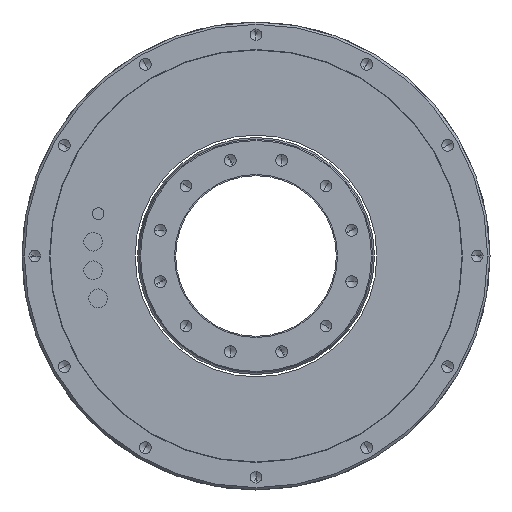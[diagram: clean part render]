
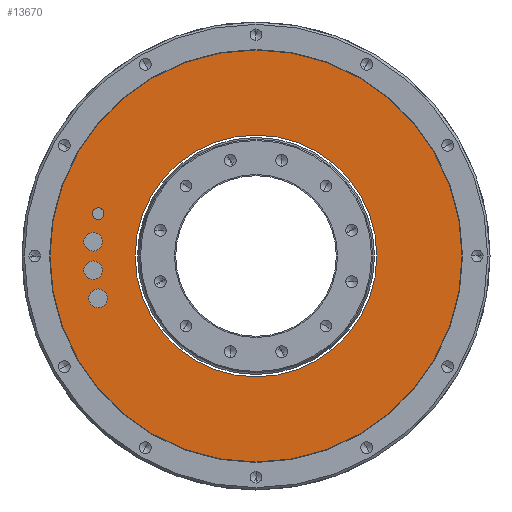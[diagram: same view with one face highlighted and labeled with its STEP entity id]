
A CAD part, left-side view. The second image highlights one B-rep face of the part: STEP entity #13670.
In plain terms, the highlighted planar face has unit normal (-1, 0, 0).
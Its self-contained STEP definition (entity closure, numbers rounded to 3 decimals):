
#13249=CARTESIAN_POINT('',(-160.,0.,0.));
#13250=DIRECTION('',(-1.,0.,0.));
#13251=DIRECTION('',(0.,1.,0.));
#13252=AXIS2_PLACEMENT_3D('',#13249,#13250,#13251);
#13254=CARTESIAN_POINT('',(-160.,0.,0.));
#13255=DIRECTION('',(1.,0.,0.));
#13256=DIRECTION('',(0.,1.,0.));
#13257=AXIS2_PLACEMENT_3D('',#13254,#13255,#13256);
#13259=CARTESIAN_POINT('',(-160.,0.,0.));
#13260=DIRECTION('',(-1.,0.,0.));
#13261=DIRECTION('',(0.,1.,0.));
#13262=AXIS2_PLACEMENT_3D('',#13259,#13260,#13261);
#13264=CARTESIAN_POINT('',(-160.,0.,0.));
#13265=DIRECTION('',(1.,0.,0.));
#13266=DIRECTION('',(0.,1.,0.));
#13267=AXIS2_PLACEMENT_3D('',#13264,#13265,#13266);
#13269=CARTESIAN_POINT('',(-160.,67.808,-18.169));
#13270=DIRECTION('',(-1.,0.,0.));
#13271=DIRECTION('',(0.,0.,1.));
#13272=AXIS2_PLACEMENT_3D('',#13269,#13270,#13271);
#13274=CARTESIAN_POINT('',(-160.,67.808,-18.169));
#13275=DIRECTION('',(-1.,0.,0.));
#13276=DIRECTION('',(0.,0.,-1.));
#13277=AXIS2_PLACEMENT_3D('',#13274,#13275,#13276);
#13279=CARTESIAN_POINT('',(-160.,67.808,18.169));
#13280=DIRECTION('',(-1.,0.,0.));
#13281=DIRECTION('',(0.,0.,1.));
#13282=AXIS2_PLACEMENT_3D('',#13279,#13280,#13281);
#13284=CARTESIAN_POINT('',(-160.,67.808,18.169));
#13285=DIRECTION('',(-1.,0.,0.));
#13286=DIRECTION('',(0.,0.,-1.));
#13287=AXIS2_PLACEMENT_3D('',#13284,#13285,#13286);
#13289=CARTESIAN_POINT('',(-160.,69.933,6.118));
#13290=DIRECTION('',(-1.,0.,0.));
#13291=DIRECTION('',(0.,0.,1.));
#13292=AXIS2_PLACEMENT_3D('',#13289,#13290,#13291);
#13294=CARTESIAN_POINT('',(-160.,69.933,6.118));
#13295=DIRECTION('',(-1.,0.,0.));
#13296=DIRECTION('',(0.,0.,-1.));
#13297=AXIS2_PLACEMENT_3D('',#13294,#13295,#13296);
#13299=CARTESIAN_POINT('',(-160.,69.933,-6.118));
#13300=DIRECTION('',(-1.,0.,0.));
#13301=DIRECTION('',(0.,0.,1.));
#13302=AXIS2_PLACEMENT_3D('',#13299,#13300,#13301);
#13304=CARTESIAN_POINT('',(-160.,69.933,-6.118));
#13305=DIRECTION('',(-1.,0.,0.));
#13306=DIRECTION('',(0.,0.,-1.));
#13307=AXIS2_PLACEMENT_3D('',#13304,#13305,#13306);
#13458=CARTESIAN_POINT('',(-160.,88.5,0.));
#13460=VERTEX_POINT('',#13458);
#13461=CARTESIAN_POINT('',(-160.,51.9,0.));
#13463=VERTEX_POINT('',#13461);
#13478=CARTESIAN_POINT('',(-160.,-88.5,0.));
#13480=VERTEX_POINT('',#13478);
#13481=CARTESIAN_POINT('',(-160.,-51.9,0.));
#13483=VERTEX_POINT('',#13481);
#13513=CARTESIAN_POINT('',(-160.,67.808,-14.169));
#13514=CARTESIAN_POINT('',(-160.,67.808,-22.169));
#13515=VERTEX_POINT('',#13513);
#13516=VERTEX_POINT('',#13514);
#13517=CARTESIAN_POINT('',(-160.,67.808,20.669));
#13518=CARTESIAN_POINT('',(-160.,67.808,15.669));
#13519=VERTEX_POINT('',#13517);
#13520=VERTEX_POINT('',#13518);
#13521=CARTESIAN_POINT('',(-160.,69.933,10.118));
#13522=CARTESIAN_POINT('',(-160.,69.933,2.118));
#13523=VERTEX_POINT('',#13521);
#13524=VERTEX_POINT('',#13522);
#13525=CARTESIAN_POINT('',(-160.,69.933,-2.118));
#13526=CARTESIAN_POINT('',(-160.,69.933,-10.118));
#13527=VERTEX_POINT('',#13525);
#13528=VERTEX_POINT('',#13526);
#13631=CARTESIAN_POINT('',(-160.,0.,0.));
#13632=DIRECTION('',(1.,0.,0.));
#13633=DIRECTION('',(0.,-1.,0.));
#13634=AXIS2_PLACEMENT_3D('',#13631,#13632,#13633);
#13635=PLANE('',#13634);
#13637=ORIENTED_EDGE('',*,*,#13636,.F.);
#13639=ORIENTED_EDGE('',*,*,#13638,.T.);
#13640=EDGE_LOOP('',(#13637,#13639));
#13641=FACE_OUTER_BOUND('',#13640,.F.);
#13642=ORIENTED_EDGE('',*,*,#13624,.F.);
#13643=ORIENTED_EDGE('',*,*,#13613,.T.);
#13644=EDGE_LOOP('',(#13642,#13643));
#13645=FACE_BOUND('',#13644,.F.);
#13647=ORIENTED_EDGE('',*,*,#13646,.T.);
#13649=ORIENTED_EDGE('',*,*,#13648,.T.);
#13650=EDGE_LOOP('',(#13647,#13649));
#13651=FACE_BOUND('',#13650,.F.);
#13653=ORIENTED_EDGE('',*,*,#13652,.T.);
#13655=ORIENTED_EDGE('',*,*,#13654,.T.);
#13656=EDGE_LOOP('',(#13653,#13655));
#13657=FACE_BOUND('',#13656,.F.);
#13659=ORIENTED_EDGE('',*,*,#13658,.T.);
#13661=ORIENTED_EDGE('',*,*,#13660,.T.);
#13662=EDGE_LOOP('',(#13659,#13661));
#13663=FACE_BOUND('',#13662,.F.);
#13665=ORIENTED_EDGE('',*,*,#13664,.T.);
#13667=ORIENTED_EDGE('',*,*,#13666,.T.);
#13668=EDGE_LOOP('',(#13665,#13667));
#13669=FACE_BOUND('',#13668,.F.);
#13670=ADVANCED_FACE('',(#13641,#13645,#13651,#13657,#13663,#13669),#13635,.F.);
#13253=CIRCLE('',#13252,51.9);
#13258=CIRCLE('',#13257,51.9);
#13263=CIRCLE('',#13262,88.5);
#13268=CIRCLE('',#13267,88.5);
#13273=CIRCLE('',#13272,4.);
#13278=CIRCLE('',#13277,4.);
#13283=CIRCLE('',#13282,2.5);
#13288=CIRCLE('',#13287,2.5);
#13293=CIRCLE('',#13292,4.);
#13298=CIRCLE('',#13297,4.);
#13303=CIRCLE('',#13302,4.);
#13308=CIRCLE('',#13307,4.);
#13613=EDGE_CURVE('',#13463,#13483,#13253,.T.);
#13624=EDGE_CURVE('',#13463,#13483,#13258,.T.);
#13636=EDGE_CURVE('',#13460,#13480,#13263,.T.);
#13638=EDGE_CURVE('',#13460,#13480,#13268,.T.);
#13646=EDGE_CURVE('',#13515,#13516,#13273,.T.);
#13648=EDGE_CURVE('',#13516,#13515,#13278,.T.);
#13652=EDGE_CURVE('',#13519,#13520,#13283,.T.);
#13654=EDGE_CURVE('',#13520,#13519,#13288,.T.);
#13658=EDGE_CURVE('',#13523,#13524,#13293,.T.);
#13660=EDGE_CURVE('',#13524,#13523,#13298,.T.);
#13664=EDGE_CURVE('',#13527,#13528,#13303,.T.);
#13666=EDGE_CURVE('',#13528,#13527,#13308,.T.);
